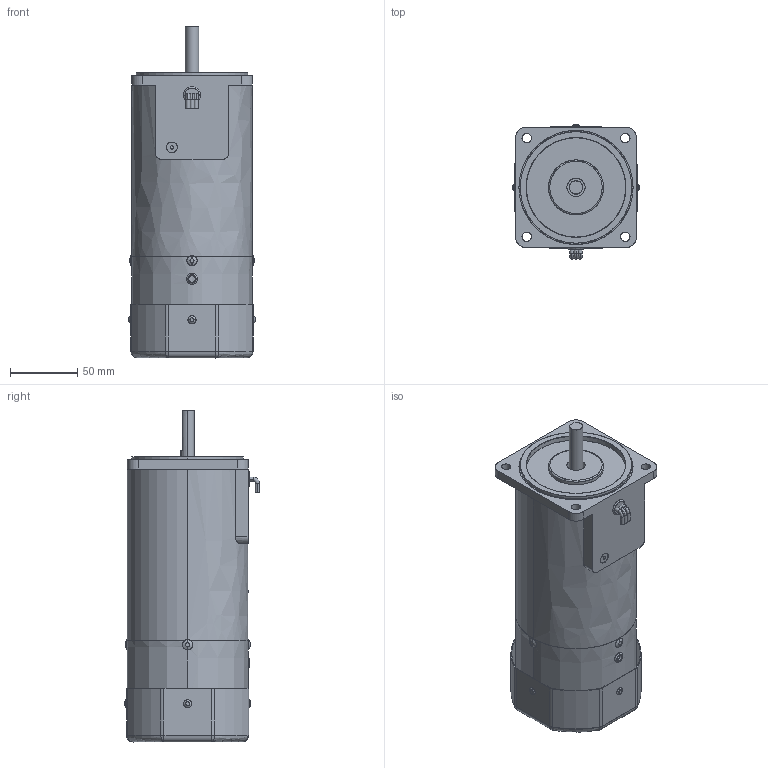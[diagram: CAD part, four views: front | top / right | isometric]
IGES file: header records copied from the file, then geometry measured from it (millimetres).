
Start section: SolidWorks IGES file using analytic representation for surfaces
Bounding box: 94 x 100.5 x 247.5 mm (x, y, z)
Surface area: 193038.1 mm2 (no closed solid volume)
Topology: 0 solids, 0 shells, 280 faces, 5994 edges, 5978 vertices
Faces by surface type: revolution 156, bspline 124
